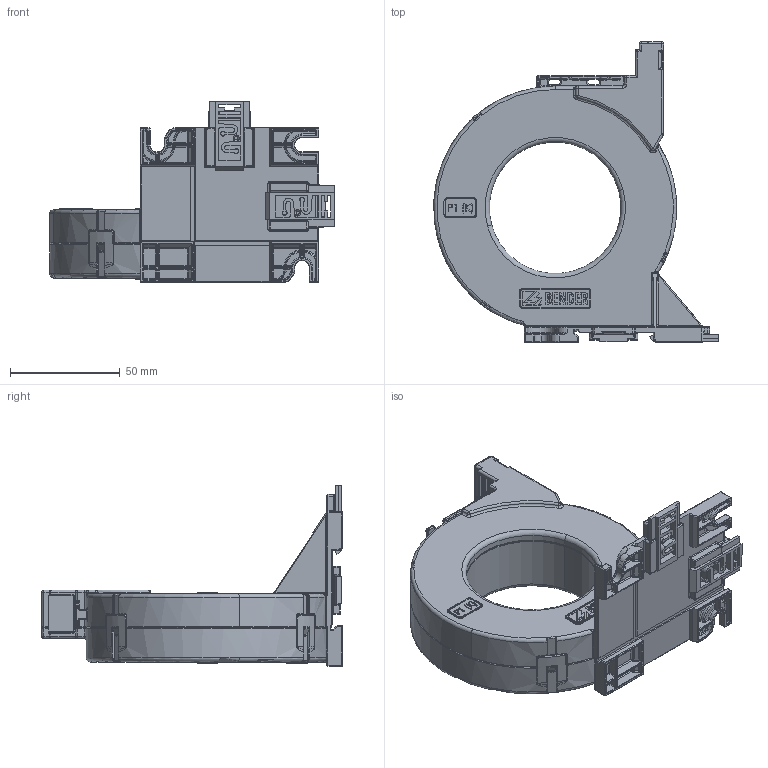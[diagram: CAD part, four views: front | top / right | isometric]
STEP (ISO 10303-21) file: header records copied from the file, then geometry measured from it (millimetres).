
FILE_DESCRIPTION (( 'STEP AP214' ), '1' );
FILE_NAME ('CTAC60.STEP', '2019-04-11T11:27:51', ( 'Administrator' ), ( '' ), 'SwSTEP 2.0', 'SolidWorks 2019', '' );
FILE_SCHEMA (( 'AUTOMOTIVE_DESIGN' ));
Length unit declared in the file: millimetre
Products named in the file (4): Z152517.02_Geh.CTAC60UT_Geh._W60UTS - RAL 1003; Z151798.04_Schieber; CTAC60; Z152518.01_Geh.CTxC60OT_Geh._W60OT - RAL 7022
Assembly tree (4 placements, depth 2):
  CTAC60
    Z152517.02_Geh.CTAC60UT_Geh._W60UTS - RAL 1003
    Z152518.01_Geh.CTxC60OT_Geh._W60OT - RAL 7022
    Z151798.04_Schieber  x2
Bounding box: 129.7 x 137 x 82.4 mm (x, y, z)
Volume: 94043.8 mm3; surface area: 98511.3 mm2
Topology: 4 solids, 4 shells, 4180 faces, 10289 edges, 6031 vertices
Faces by surface type: cylinder 1298, plane 1169, bspline 890, torus 600, sphere 211, cone 12
Entity records: 149375 total; most frequent: CARTESIAN_POINT 58798, ORIENTED_EDGE 19762, DIRECTION 17737, EDGE_CURVE 9881, AXIS2_PLACEMENT_3D 6607, VERTEX_POINT 5900, LINE 4523, VECTOR 4523
